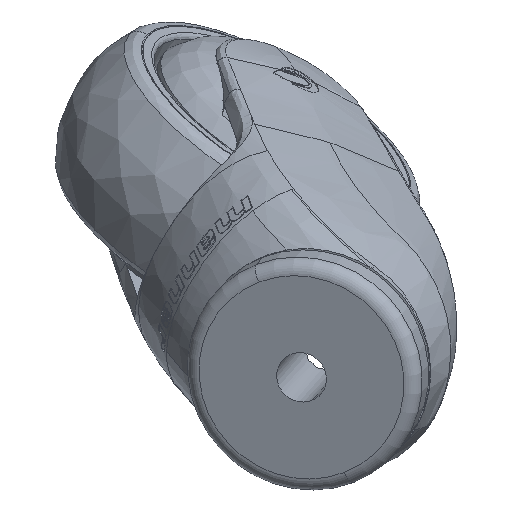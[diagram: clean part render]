
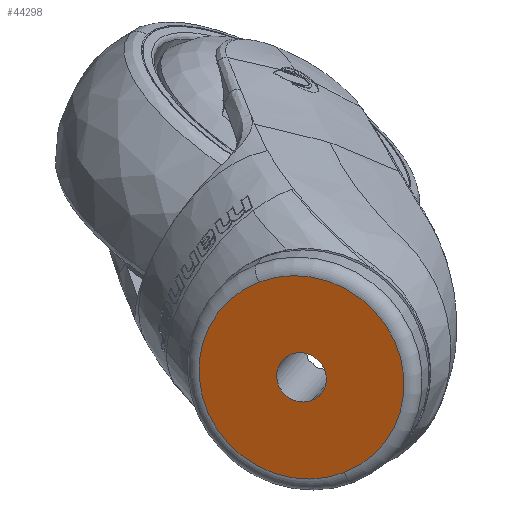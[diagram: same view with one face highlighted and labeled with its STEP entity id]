
A CAD part, top view. The second image highlights one B-rep face of the part: STEP entity #44298.
In plain terms, the highlighted planar face has unit normal (-0.239, -0.272, 0.932).
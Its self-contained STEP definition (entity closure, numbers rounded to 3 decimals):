
#372 = EDGE_LOOP ( 'NONE', ( #48809, #38647 ) ) ;
#457 = AXIS2_PLACEMENT_3D ( 'NONE', #23683, #23507, #35409 ) ;
#847 = DIRECTION ( 'NONE',  ( 0.239, 0.272, -0.932 ) ) ;
#1272 = DIRECTION ( 'NONE',  ( 0.404, -0.901, -0.159 ) ) ;
#2283 = ORIENTED_EDGE ( 'NONE', *, *, #3697, .T. ) ;
#3038 = CARTESIAN_POINT ( 'NONE',  ( 94.563, -38.253, -5.199 ) ) ;
#3697 = EDGE_CURVE ( 'NONE', #35302, #19933, #5655, .T. ) ;
#5655 = CIRCLE ( 'NONE', #13757, 5.1 ) ;
#6314 = FACE_OUTER_BOUND ( 'NONE', #372, .T. ) ;
#8438 = EDGE_CURVE ( 'NONE', #18245, #38500, #30266, .T. ) ;
#8628 = EDGE_LOOP ( 'NONE', ( #38983, #2283 ) ) ;
#10776 = CIRCLE ( 'NONE', #457, 21. ) ;
#13309 = DIRECTION ( 'NONE',  ( 0.239, 0.272, -0.932 ) ) ;
#13757 = AXIS2_PLACEMENT_3D ( 'NONE', #45587, #847, #29193 ) ;
#15749 = AXIS2_PLACEMENT_3D ( 'NONE', #27880, #31942, #28221 ) ;
#18245 = VERTEX_POINT ( 'NONE', #49694 ) ;
#18444 = CARTESIAN_POINT ( 'NONE',  ( 88.133, -23.933, -2.672 ) ) ;
#19933 = VERTEX_POINT ( 'NONE', #18444 ) ;
#20119 = CARTESIAN_POINT ( 'NONE',  ( 86.07, -19.34, -1.862 ) ) ;
#22784 = FACE_BOUND ( 'NONE', #8628, .T. ) ;
#23507 = DIRECTION ( 'NONE',  ( -0.239, -0.272, 0.932 ) ) ;
#23683 = CARTESIAN_POINT ( 'NONE',  ( 86.07, -19.34, -1.862 ) ) ;
#25752 = AXIS2_PLACEMENT_3D ( 'NONE', #50230, #13309, #1272 ) ;
#27311 = AXIS2_PLACEMENT_3D ( 'NONE', #20119, #27596, #31656 ) ;
#27596 = DIRECTION ( 'NONE',  ( -0.239, -0.272, 0.932 ) ) ;
#27880 = CARTESIAN_POINT ( 'NONE',  ( 107.256, -11.203, 5.946 ) ) ;
#28221 = DIRECTION ( 'NONE',  ( 0.404, -0.901, -0.159 ) ) ;
#29193 = DIRECTION ( 'NONE',  ( 0.404, -0.901, -0.159 ) ) ;
#30266 = CIRCLE ( 'NONE', #27311, 21. ) ;
#31656 = DIRECTION ( 'NONE',  ( 0.404, -0.901, -0.159 ) ) ;
#31942 = DIRECTION ( 'NONE',  ( 0.239, 0.272, -0.932 ) ) ;
#35302 = VERTEX_POINT ( 'NONE', #43730 ) ;
#35409 = DIRECTION ( 'NONE',  ( 0.404, -0.901, -0.159 ) ) ;
#36746 = EDGE_CURVE ( 'NONE', #19933, #35302, #43998, .T. ) ;
#38500 = VERTEX_POINT ( 'NONE', #3038 ) ;
#38647 = ORIENTED_EDGE ( 'NONE', *, *, #8438, .T. ) ;
#38983 = ORIENTED_EDGE ( 'NONE', *, *, #36746, .T. ) ;
#43730 = CARTESIAN_POINT ( 'NONE',  ( 84.007, -14.746, -1.051 ) ) ;
#43752 = EDGE_CURVE ( 'NONE', #38500, #18245, #10776, .T. ) ;
#43998 = CIRCLE ( 'NONE', #25752, 5.1 ) ;
#44298 = ADVANCED_FACE ( 'NONE', ( #6314, #22784 ), #52203, .F. ) ;
#45587 = CARTESIAN_POINT ( 'NONE',  ( 86.07, -19.34, -1.862 ) ) ;
#48809 = ORIENTED_EDGE ( 'NONE', *, *, #43752, .T. ) ;
#49694 = CARTESIAN_POINT ( 'NONE',  ( 77.576, -0.426, 1.476 ) ) ;
#50230 = CARTESIAN_POINT ( 'NONE',  ( 86.07, -19.34, -1.862 ) ) ;
#52203 = PLANE ( 'NONE',  #15749 ) ;
